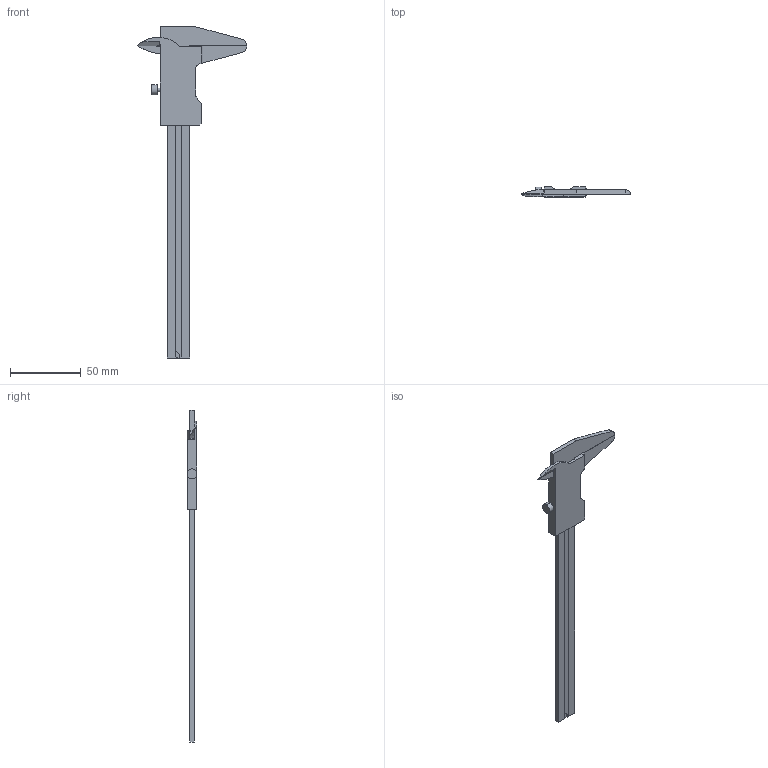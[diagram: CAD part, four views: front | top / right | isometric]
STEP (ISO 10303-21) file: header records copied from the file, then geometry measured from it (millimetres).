
FILE_DESCRIPTION (( 'STEP AP203' ), '1' );
FILE_NAME ('Messschieber (MS)_KCWZ000.STEP', '2023-08-25T14:31:38', ( '' ), ( '' ), 'SwSTEP 2.0', 'SolidWorks 2023', '' );
FILE_SCHEMA (( 'CONFIG_CONTROL_DESIGN' ));
Length unit declared in the file: millimetre
Products named in the file (7): TB_Stab_KCWZ000; Messschieber (MS)_KCWZ000; TA_Teil_KCWZ000; TB_Teil_KCWZ000; TB_Schraube A_KCWZ000; MS_Teil A (TA)_KCWZ000; MS_Teil B (TB)_KCWZ000
Assembly tree (6 placements, depth 3):
  Messschieber (MS)_KCWZ000
    MS_Teil A (TA)_KCWZ000
      TA_Teil_KCWZ000
    MS_Teil B (TB)_KCWZ000
      TB_Teil_KCWZ000
      TB_Schraube A_KCWZ000
      TB_Stab_KCWZ000
Bounding box: 77 x 7 x 234 mm (x, y, z)
Volume: 20012.6 mm3; surface area: 18843.3 mm2
Topology: 4 solids, 4 shells, 2247 faces, 5621 edges, 3746 vertices
Faces by surface type: plane 1355, cylinder 627, bspline 263, cone 2
Entity records: 83002 total; most frequent: CARTESIAN_POINT 28908, ORIENTED_EDGE 11242, DIRECTION 10337, EDGE_CURVE 5621, LINE 3835, VECTOR 3835, VERTEX_POINT 3746, AXIS2_PLACEMENT_3D 3251
